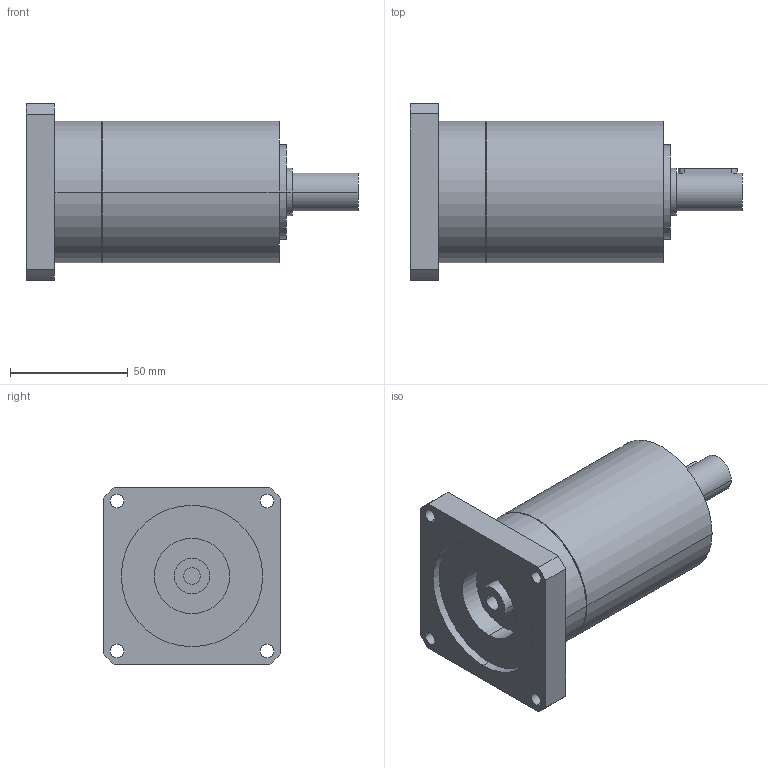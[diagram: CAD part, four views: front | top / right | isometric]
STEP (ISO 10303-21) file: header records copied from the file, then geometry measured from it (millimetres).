
FILE_DESCRIPTION(('CoCreate Modeling STEP Export'),'2;1');
FILE_NAME('GPR75_ig-9-12-16-20-24-30-36_16_B14_7_P15.stp','2014-08-25T16:05:23',(''),(''),'CoCreate Modeling STEP processor for AP214 (Solid Model)','CoCreate Modeling 16.00C 25-Feb-2009 (C) Parametric Technology GmbH','');
FILE_SCHEMA(('AUTOMOTIVE_DESIGN { 1 0 10303 214 1 1 1 1 }'));
Length unit declared in the file: millimetre
Products named in the file (2): GPR75_ig-9-12-16-20-24-30-36_16_B14_7_P15
Assembly tree (1 placements, depth 2):
  GPR75_ig-9-12-16-20-24-30-36_16_B14_7_P15
    GPR75_ig-9-12-16-20-24-30-36_16_B14_7_P15
Bounding box: 140.9 x 75 x 75 mm (x, y, z)
Volume: 328635.4 mm3; surface area: 38576.2 mm2
Topology: 1 solids, 1 shells, 70 faces, 188 edges, 132 vertices
Faces by surface type: cylinder 42, plane 22, cone 6
Entity records: 1939 total; most frequent: ORIENTED_EDGE 372, CARTESIAN_POINT 360, DIRECTION 262, EDGE_CURVE 186, VERTEX_POINT 132, AXIS2_PLACEMENT_3D 98, EDGE_LOOP 92, FACE_OUTER_BOUND 70
